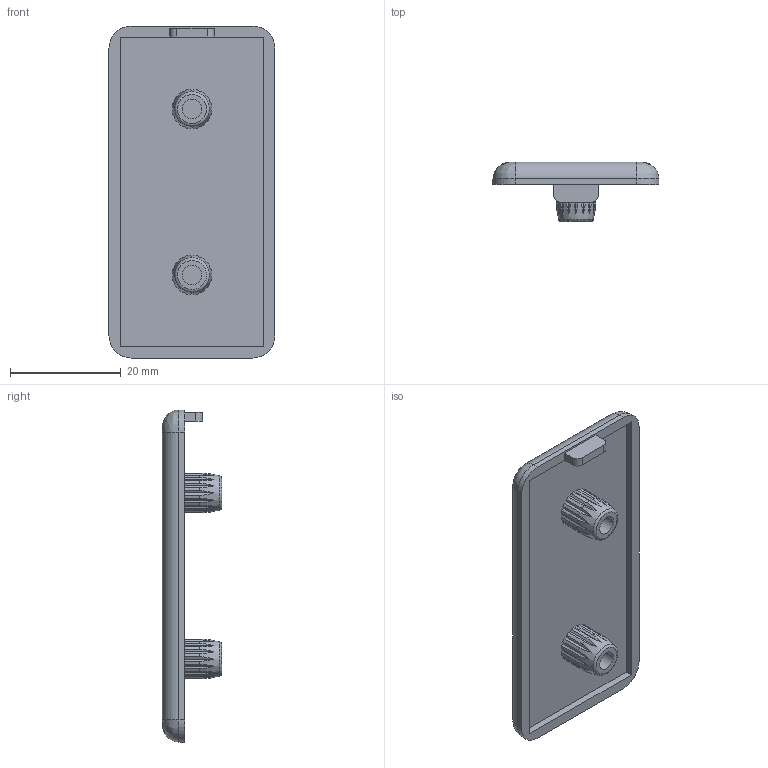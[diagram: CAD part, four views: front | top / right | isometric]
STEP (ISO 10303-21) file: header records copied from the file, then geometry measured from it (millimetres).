
FILE_DESCRIPTION(/* description */ ('STEP AP203'),/* implementation_level */ '2;1');
FILE_NAME(/* name */ 'Plastic End Cap - 30 Series - 30x60.step',/* time_stamp */ '2025-05-14T19:16:45+03:00',/* author */ (''),/* organization */ (''),/* preprocessor_version */ 'ST-DEVELOPER v20.1',/* originating_system */ 'Autodesk Translation Framework v14.4.0.0',/* authorisation */ '');
FILE_SCHEMA (('AUTOMOTIVE_DESIGN { 1 0 10303 214 3 1 1 }','PROCESS_PLANNING_SCHEMA'));
Length unit declared in the file: millimetre
Products named in the file (1): 375.0800A
Bounding box: 30 x 10.7 x 60 mm (x, y, z)
Volume: 5411.3 mm3; surface area: 4837.2 mm2
Topology: 1 solids, 1 shells, 135 faces, 378 edges, 250 vertices
Faces by surface type: plane 83, cylinder 44, bspline 6, torus 2
Full cylindrical faces by diameter (mm): 3.5 x2
Entity records: 5001 total; most frequent: CARTESIAN_POINT 1551, ORIENTED_EDGE 756, DIRECTION 670, EDGE_CURVE 378, VERTEX_POINT 250, AXIS2_PLACEMENT_3D 231, LINE 208, VECTOR 208
